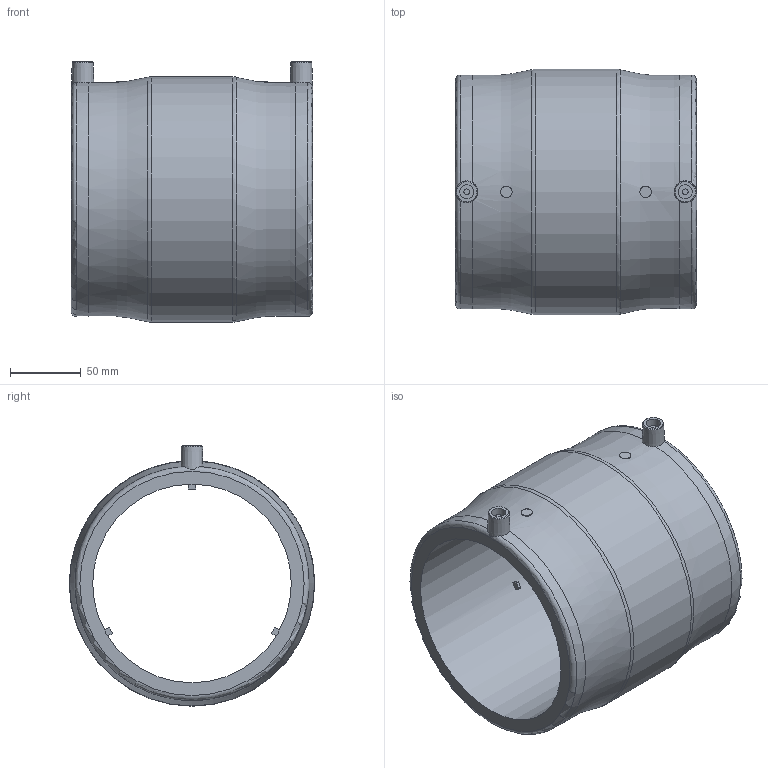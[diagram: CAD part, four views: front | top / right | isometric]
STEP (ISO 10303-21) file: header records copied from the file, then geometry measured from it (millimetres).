
FILE_DESCRIPTION(/* description */ ('Unknown'),/* implementation_level */ '2;1');
FILE_NAME(/* name */ 'MP140C',/* time_stamp */ '2021-02-10T16:18:20+01:00',/* author */ ('Unknown'),/* organization */ ('Unknown'),/* preprocessor_version */ 'ST-DEVELOPER v16.7',/* originating_system */ 'Solid Edge',/* authorisation */ 'Unknown');
FILE_SCHEMA (('AUTOMOTIVE_DESIGN {1 0 10303 214 3 1 1}'));
Length unit declared in the file: millimetre
Products named in the file (1): MP140C
Bounding box: 170 x 173 x 183.5 mm (x, y, z)
Volume: 1177493.8 mm3; surface area: 178341.5 mm2
Topology: 1 solids, 1 shells, 51 faces, 122 edges, 80 vertices
Faces by surface type: plane 25, cylinder 16, torus 8, cone 2
Full cylindrical faces by diameter (mm): 4 x2, 10 x2, 140 x1, 173 x1
Entity records: 1380 total; most frequent: CARTESIAN_POINT 292, DIRECTION 228, ORIENTED_EDGE 184, AXIS2_PLACEMENT_3D 96, EDGE_CURVE 92, EDGE_LOOP 78, FACE_BOUND 78, VERTEX_POINT 68
